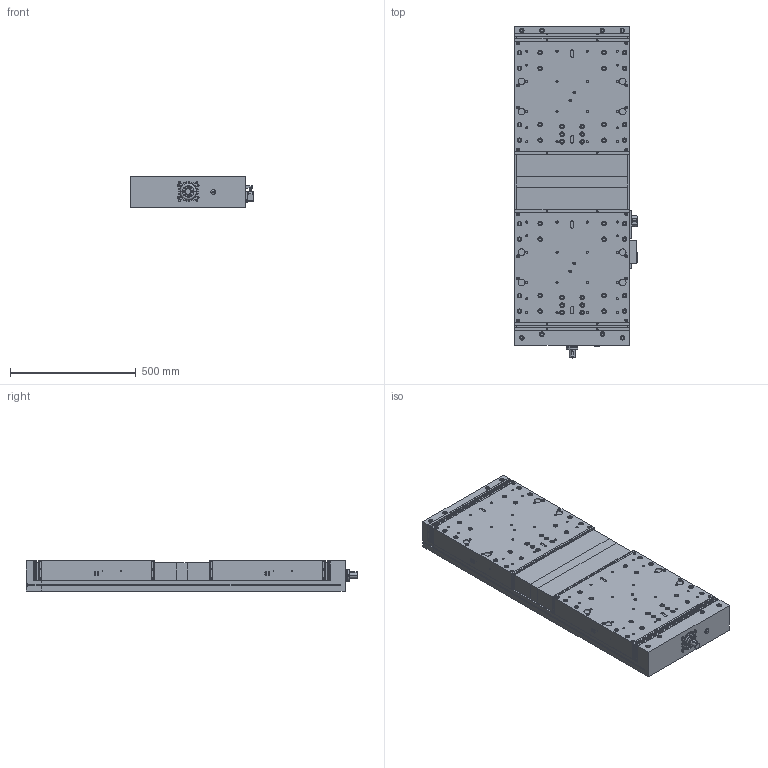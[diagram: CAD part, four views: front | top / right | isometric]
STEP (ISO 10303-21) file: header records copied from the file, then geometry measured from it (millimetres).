
FILE_DESCRIPTION(('Creo Elements/Direct Modeling STEP Export'),'2;1');
FILE_NAME('A35-B-455-RL-2x100_SP450_EMB.stp','2020-12-15T13:11:57',(''),(''),'Creo Elements/Direct Modeling STEP processor for AP214 (Solid Model)','Creo Elements/Direct Modeling 20.1D 10-Oct-2020 (C) Parametric Technology GmbH','');
FILE_SCHEMA(('AUTOMOTIVE_DESIGN { 1 0 10303 214 1 1 1 1 }'));
Length unit declared in the file: millimetre
Products named in the file (25): A35-B__Schlitten_450; A35-B__Grundkoerper; A35-B__Loslagerplatte; A35-B__Faltenbalg.02; A35-B__Faltenbalg.01; A35-B__Faltenbalg; A35-B__Faltenbalg_kpl; NS6_10561.02; Nutensteinpaar; Nutensteine; Schraube_M_4x30_DIN_912_8.8_vz_10045; Steuernocke_12460; Nockenhalter_13189; Steuernocke_kpl.; Befestigungsplatte_12960; NS3_10558.02; Schraube_M_6x12_DIN_7984_8.8_vz_22391; BNS-819-100-R-10; EMB_1; EMB_2; EMB_kpl.; A35-B-455-RL-2x100_SP450_EMB
Assembly tree (32 placements, depth 4):
  A35-B-455-RL-2x100_SP450_EMB
    A35-B__Schlitten_450  x2
    EMB_kpl.
      EMB_2
        BNS-819-100-R-10
        Schraube_M_6x12_DIN_7984_8.8_vz_22391  x2
        NS3_10558.02  x2
        Befestigungsplatte_12960
      EMB_1
        BNS-819-100-R-10
        Schraube_M_6x12_DIN_7984_8.8_vz_22391  x2
        NS3_10558.02  x2
        Befestigungsplatte_12960
      Steuernocke_kpl.
        Nockenhalter_13189
        Steuernocke_12460
        Schraube_M_4x30_DIN_912_8.8_vz_10045  x2
    Nutensteine
      Nutensteinpaar
        NS6_10561.02  x2
    A35-B__Faltenbalg_kpl
      A35-B__Faltenbalg
      A35-B__Faltenbalg.01
      A35-B__Faltenbalg.02
    A35-B__Loslagerplatte
    A35-B__Grundkoerper
Bounding box: 486.11 x 1319 x 120 mm (x, y, z)
Volume: 59590796 mm3; surface area: 4646692.7 mm2
Topology: 25 solids, 25 shells, 3275 faces, 7911 edges, 5081 vertices
Faces by surface type: plane 1860, cylinder 893, cone 420, extrusion 68, torus 24, sphere 10
Entity records: 65679 total; most frequent: CARTESIAN_POINT 14230, ORIENTED_EDGE 10714, DIRECTION 9453, EDGE_CURVE 5351, VECTOR 3619, LINE 3551, VERTEX_POINT 3484, AXIS2_PLACEMENT_3D 2917
